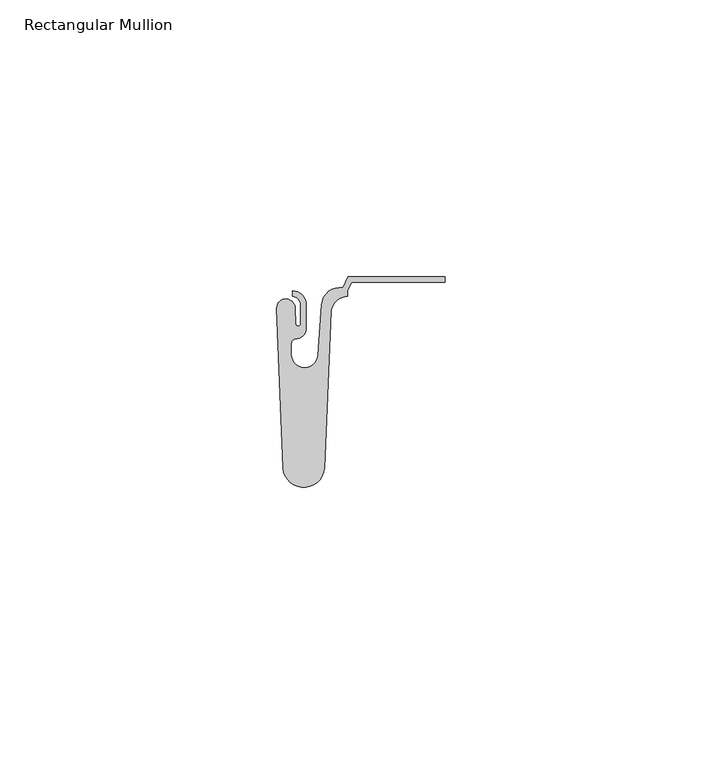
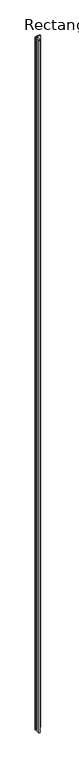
"""IFC4 building model written with IfcOpenShell, lengths in millimetres: member geometry, Rectangular Mullion : Stratco_Hiland_Tray Nailstrip_38mm Rib_Intermediate."""

from ifc_helpers import new_model, si_unit, point, frame, frame_2d, origin, place, context, project, spatial, polyline, circle_curve, trimmed, segment, composite_curve, outline, extrude, source, transform, mapped, element, save


def rectangular_mullion_15a9ede3(model_context):
    return source(origin(), model_context, "Body", "SweptSolid", [
        extrude(outline(composite_curve([segment(trimmed(circle_curve(frame_2d((-3.1614675, -5.620257)), 1.6668962), [point((-4.8275965, -5.6708248))], [point((-1.4953508, -5.5692832))], False, "CARTESIAN"), True, "CONTINUOUS"), segment(polyline([(-1.4953508, -5.5692832), (-1.4078707, -8.428624)]), True, "CONTINUOUS"), segment(trimmed(circle_curve(frame_2d((-0.9554831, -8.4147659)), 0.4525998), [point((-1.4078707, -8.428624))], [point((-0.5028833, -8.4147659))], True, "CARTESIAN"), True, "CONTINUOUS"), segment(polyline([(-0.5028833, -8.4147659), (-0.5028833, -4.9971229)]), True, "CONTINUOUS"), segment(trimmed(circle_curve(frame_2d((-2.0, -4.9971229)), 1.4971167), [point((-0.5028833, -4.9971229))], [point((-2.0, -3.5000063))], True, "CARTESIAN"), True, "CONTINUOUS"), segment(polyline([(-2.0, -3.5000063), (-2.0, -2.5000038)]), True, "CONTINUOUS"), segment(trimmed(circle_curve(frame_2d((-2.0, -4.9973044)), 2.4973006), [point((-2.0, -2.5000038))], [point((0.4973006, -4.9973044))], False, "CARTESIAN"), True, "CONTINUOUS"), segment(polyline([(0.4973006, -4.9973044), (0.4973006, -9.2101777)]), True, "CONTINUOUS"), segment(trimmed(circle_curve(frame_2d((-1.4401451, -9.2101777)), 1.9374457), [point((0.4973006, -9.2101777))], [point((-1.4943464, -11.1468651))], False, "CARTESIAN"), True, "CONTINUOUS"), segment(trimmed(circle_curve(frame_2d((-1.3057585, -12.0272941)), 0.9004003), [point((-1.4943464, -11.1468651))], [point((-2.2061588, -12.0272941))], True, "CARTESIAN"), True, "CONTINUOUS"), segment(polyline([(-2.2061588, -12.0272941), (-2.2061588, -13.9449093)]), True, "CONTINUOUS"), segment(trimmed(circle_curve(frame_2d((0.2184755, -13.9449093)), 2.4246342), [point((-2.2061588, -13.9449093))], [point((2.6368092, -14.1195889))], True, "CARTESIAN"), True, "CONTINUOUS"), segment(polyline([(2.6368092, -14.1195889), (3.2971755, -4.9775568)]), True, "CONTINUOUS"), segment(trimmed(circle_curve(frame_2d((6.6210361, -5.2176529)), 3.3325208), [point((3.2971755, -4.9775568))], [point((7.1604929, -1.9290846))], False, "CARTESIAN"), True, "CONTINUOUS"), segment(polyline([(7.1604929, -1.9290846), (8.0320421, 0.0284469), (25.5651563, 0.0284469), (25.5651563, -0.9715531), (8.6814497, -0.9715531), (8.0, -2.5021141), (8.0, -3.5)]), True, "CONTINUOUS"), segment(trimmed(circle_curve(frame_2d((7.9939157, -6.4999938)), 3.0), [point((8.0, -3.5))], [point((5.0103537, -6.1863733))], True, "CARTESIAN"), True, "CONTINUOUS"), segment(polyline([(5.0103537, -6.1863733), (3.8046119, -34.504468)]), True, "CONTINUOUS"), segment(trimmed(circle_curve(frame_2d((0.0551799, -34.2093368)), 3.7610294), [point((3.8046119, -34.504468))], [point((-3.6962532, -34.4778353))], False, "CARTESIAN"), True, "CONTINUOUS"), segment(polyline([(-3.6962532, -34.4778353), (-4.8275965, -5.6708248)]), True, "CONTINUOUS")], self_intersect=False)), frame((0.0, 0.0, -4000.0), z_axis=(0.0, 0.0, 1.0), x_axis=(1.0, 0.0, 0.0)), (0.0, 0.0, 1.0), 4000.0),
    ])


if __name__ == "__main__":
    model = new_model("IFC4")
    model_context = context("Model", 3, world=origin())
    ifc_project = project(units=[si_unit("LENGTHUNIT", "METRE", prefix="MILLI")], contexts=[model_context])
    site = spatial("IfcSite", under=ifc_project)
    building = spatial("IfcBuilding", under=site)
    placement = place(None, origin())
    rectangular_mullion_shape = rectangular_mullion_15a9ede3(model_context)
    element("IfcMember", 1, ObjectType="Rectangular Mullion : Stratco_Hiland_Tray Nailstrip_38mm Rib_Intermediate", at=placement, inside=building, context=model_context, shape_type="MappedRepresentation", body=[
        mapped(rectangular_mullion_shape, transform((0.0, 0.0, 0.0), x_axis=(1.0, 0.0, 0.0), y_axis=(0.0, 1.0, 0.0), z_axis=(0.0, 0.0, 1.0))),
    ])
    save(model, "model.ifc")
